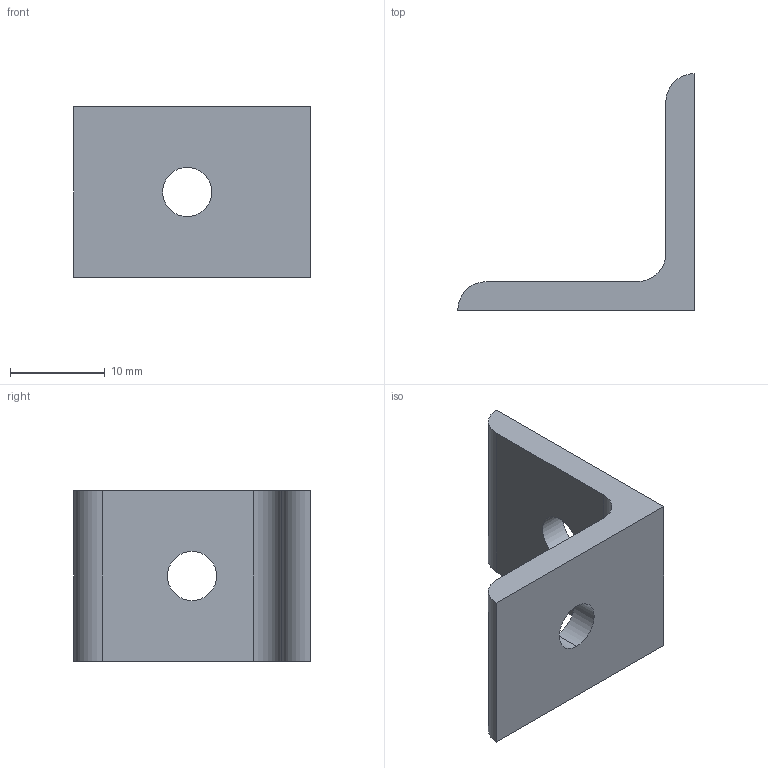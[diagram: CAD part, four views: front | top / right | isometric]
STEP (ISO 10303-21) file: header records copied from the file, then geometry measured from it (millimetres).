
FILE_DESCRIPTION (( 'STEP AP214' ), '1' );
FILE_NAME ('6001.STEP', '2015-04-22T05:28:46', ( 'user' ), ( '' ), 'SwSTEP 2.0', 'SolidWorks 2014', '' );
FILE_SCHEMA (( 'AUTOMOTIVE_DESIGN' ));
Length unit declared in the file: millimetre
Products named in the file (1): 6001
Bounding box: 25 x 25 x 18 mm (x, y, z)
Volume: 2375.8 mm3; surface area: 2021.7 mm2
Topology: 1 solids, 1 shells, 13 faces, 33 edges, 22 vertices
Faces by surface type: cylinder 7, plane 6
Entity records: 443 total; most frequent: DIRECTION 75, CARTESIAN_POINT 69, ORIENTED_EDGE 66, EDGE_CURVE 33, AXIS2_PLACEMENT_3D 28, VERTEX_POINT 22, LINE 19, VECTOR 19
